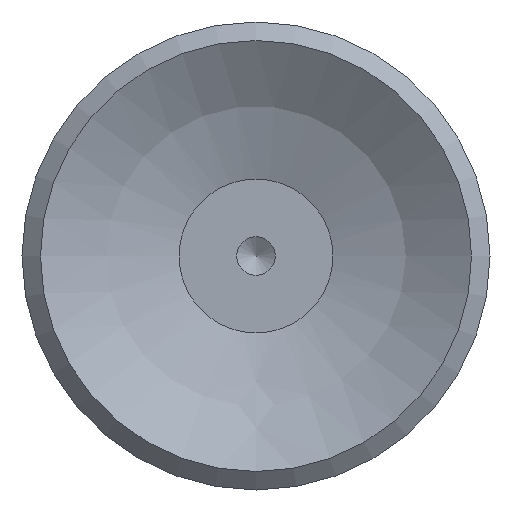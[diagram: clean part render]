
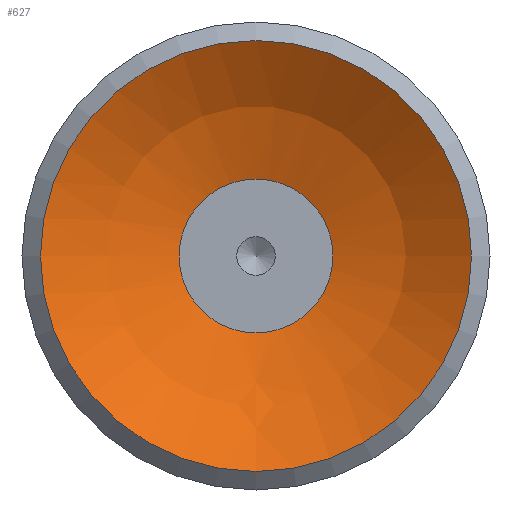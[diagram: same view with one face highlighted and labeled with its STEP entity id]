
A CAD part, front view. The second image highlights one B-rep face of the part: STEP entity #627.
In plain terms, the highlighted spherical face has radius 11.5 mm.
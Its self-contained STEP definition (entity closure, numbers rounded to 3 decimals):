
#627=ADVANCED_FACE('',(#1041,#1042),#1043,.F.);
#1041=FACE_OUTER_BOUND('',#1640,.T.);
#1042=FACE_OUTER_BOUND('',#1641,.T.);
#1043=SPHERICAL_SURFACE('',#1642,11.5);
#1640=EDGE_LOOP('',(#2978));
#1641=EDGE_LOOP('',(#2979));
#1642=AXIS2_PLACEMENT_3D('',#2980,#2981,#2982);
#2978=ORIENTED_EDGE('',*,*,#4105,.T.);
#2979=ORIENTED_EDGE('',*,*,#4106,.F.);
#2980=CARTESIAN_POINT('',(0.001,9.494,-22.735));
#2981=DIRECTION('',(0.0,0.,-1.0));
#2982=DIRECTION('',(1.0,0.0,0.0));
#4105=EDGE_CURVE('',#4772,#4772,#4773,.T.);
#4106=EDGE_CURVE('',#4774,#4774,#4775,.T.);
#4772=VERTEX_POINT('',#6595);
#4773=CIRCLE('',#6596,7.0);
#4774=VERTEX_POINT('',#6597);
#4775=CIRCLE('',#6598,2.5);
#6595=CARTESIAN_POINT('',(0.001,16.494,-13.611));
#6596=AXIS2_PLACEMENT_3D('',#7631,#7632,#7633);
#6597=CARTESIAN_POINT('',(0.001,11.994,-11.51));
#6598=AXIS2_PLACEMENT_3D('',#7634,#7635,#7636);
#7631=CARTESIAN_POINT('',(0.001,9.494,-13.611));
#7632=DIRECTION('',(0.0,0.,-1.0));
#7633=DIRECTION('',(0.0,1.0,0.));
#7634=CARTESIAN_POINT('',(0.001,9.494,-11.51));
#7635=DIRECTION('',(0.0,0.,-1.0));
#7636=DIRECTION('',(0.0,1.0,0.));
